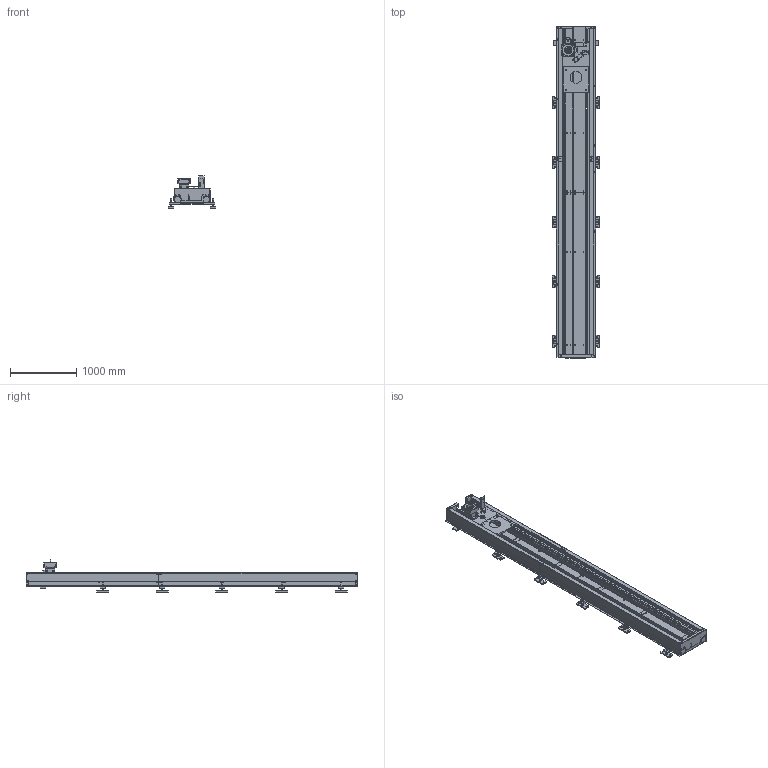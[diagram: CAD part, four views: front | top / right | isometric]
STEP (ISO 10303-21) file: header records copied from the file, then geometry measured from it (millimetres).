
FILE_DESCRIPTION (( 'STEP AP203' ), '1' );
FILE_NAME ('500kg囀离唳.STEP', '2021-10-12T07:43:36', ( '' ), ( '' ), 'SwSTEP 2.0', 'SolidWorks 2018', '' );
FILE_SCHEMA (( 'CONFIG_CONTROL_DESIGN' ));
Length unit declared in the file: millimetre
Products named in the file (34): 結輸郪蚾; LM2006-02-0004; LM2103-02-0005; Maedler Strukturdämpfer 69103400; LM2103-01-0010; LM2103-01-0011; LM2103-02-0003; F03L28B40; LM2103-01-0003; LM2103-01-0009; 禱梇喘謫; LM2103-01-0012; LM2103-01-0004; 500kg囀离唳; LM2103-01-0001_默认<按加工>; LM2103-02-0000; LM2005-03-0007; 奻窅賑輸鬥倰HGL30CAZ0H; LM2103-01-0008; LM2103-02-0004; 惕嘀; RSAG RAIL Threaded Bar_1; LM2103-02-0002_默认<按加工>; RSAG RAIL Levelling Foot Plate_1; Schweissnaht^RSAG RAIL Assembly Levelling Foot_1; LM2103-02-0007; LM2103-01-0018; LM2103-02-0006; LM2103-02-0001_默认<按加工>; LM2006-02-0003; LM2103-01-0006; LM2103-01-0005; 熬厒儂郪璃; APEX 行星减速机 AB142-010-S2-P1（配KUKA电机MG-260-180-30-S0）
Assembly tree (55 placements, depth 4):
  500kg囀离唳
    LM2103-01-0001_默认<按加工>
    LM2103-01-0003  x2
    LM2103-01-0004  x2
    LM2103-01-0005  x2
    LM2103-01-0006  x2
    LM2103-01-0008  x2
    LM2103-01-0009  x10
      RSAG RAIL Levelling Foot Plate_1
      RSAG RAIL Threaded Bar_1
      Schweissnaht^RSAG RAIL Assembly Levelling Foot_1
    LM2103-01-0010
    結輸郪蚾  x2
      LM2103-01-0011
      LM2103-01-0012
      Maedler Strukturdämpfer 69103400
    LM2103-02-0000
      LM2103-02-0001_默认<按加工>
      LM2103-02-0002_默认<按加工>
      LM2103-02-0003
      LM2005-03-0007
      LM2006-02-0003  x4
      LM2006-02-0004
      熬厒儂郪璃
        LM2103-02-0004
        LM2103-02-0005
        LM2103-02-0006
        LM2103-02-0007
        禱梇喘謫
        F03L28B40
        惕嘀
        APEX 行星减速机 AB142-010-S2-P1（配KUKA电机MG-260-180-30-S0）
      奻窅賑輸鬥倰HGL30CAZ0H  x4
    LM2103-01-0018
Bounding box: 714 x 5010 x 489 mm (x, y, z)
Volume: 79862127.5 mm3; surface area: 23944104.9 mm2
Topology: 129 solids, 140 shells, 6141 faces, 16297 edges, 10478 vertices
Faces by surface type: plane 2912, cylinder 2647, cone 518, bspline 40, torus 24
Entity records: 113587 total; most frequent: CARTESIAN_POINT 25344, DIRECTION 18092, ORIENTED_EDGE 16882, EDGE_CURVE 8451, AXIS2_PLACEMENT_3D 6686, VERTEX_POINT 5508, VECTOR 4720, LINE 4720
